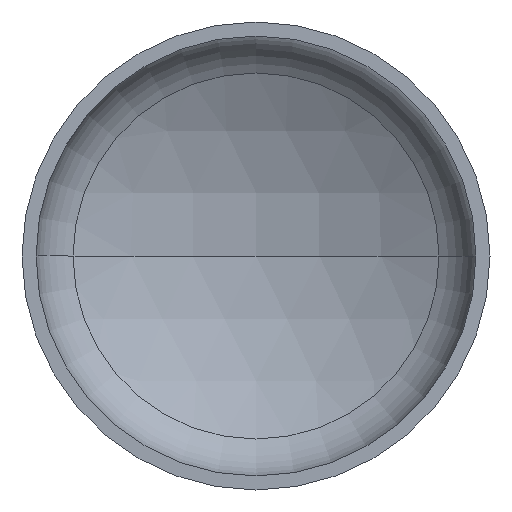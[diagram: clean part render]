
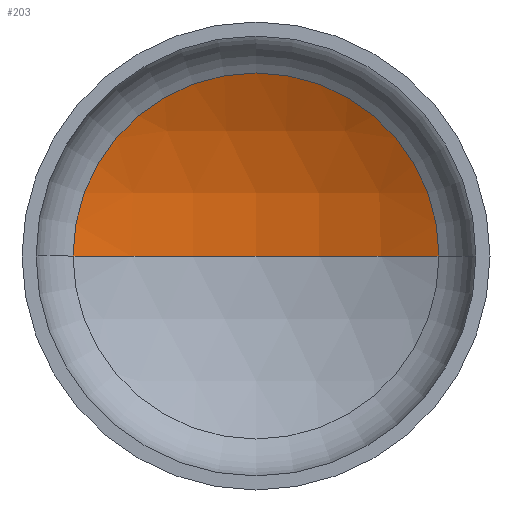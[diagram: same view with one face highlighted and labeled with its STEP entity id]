
A CAD part, front view. The second image highlights one B-rep face of the part: STEP entity #203.
In plain terms, the highlighted spherical face has radius 2720 mm.
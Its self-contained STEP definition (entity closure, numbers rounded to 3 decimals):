
#8 = EDGE_LOOP ( 'NONE', ( #121, #120, #96 ) ) ;
#11 = CARTESIAN_POINT ( 'NONE',  ( 0., 532.997, 0. ) ) ;
#16 = CARTESIAN_POINT ( 'NONE',  ( 0., -1839.862, 0. ) ) ;
#78 = DIRECTION ( 'NONE',  ( 1., 0., 0. ) ) ;
#96 = ORIENTED_EDGE ( 'NONE', *, *, #213, .T. ) ;
#97 = CARTESIAN_POINT ( 'NONE',  ( 1329.64, 532.997, 0. ) ) ;
#113 = VERTEX_POINT ( 'NONE', #339 ) ;
#120 = ORIENTED_EDGE ( 'NONE', *, *, #217, .T. ) ;
#121 = ORIENTED_EDGE ( 'NONE', *, *, #223, .F. ) ;
#123 = AXIS2_PLACEMENT_3D ( 'NONE', #385, #245, #182 ) ;
#130 = AXIS2_PLACEMENT_3D ( 'NONE', #16, #402, #272 ) ;
#133 = AXIS2_PLACEMENT_3D ( 'NONE', #11, #382, #78 ) ;
#154 = VERTEX_POINT ( 'NONE', #335 ) ;
#157 = AXIS2_PLACEMENT_3D ( 'NONE', #333, #205, #311 ) ;
#182 = DIRECTION ( 'NONE',  ( 1., 0., 0. ) ) ;
#203 = ADVANCED_FACE ( 'NONE', ( #411 ), #294, .F. ) ;
#205 = DIRECTION ( 'NONE',  ( 0., 0., -1. ) ) ;
#213 = EDGE_CURVE ( 'NONE', #378, #113, #401, .T. ) ;
#217 = EDGE_CURVE ( 'NONE', #154, #378, #348, .T. ) ;
#223 = EDGE_CURVE ( 'NONE', #154, #113, #284, .T. ) ;
#245 = DIRECTION ( 'NONE',  ( 0., 0., 1. ) ) ;
#272 = DIRECTION ( 'NONE',  ( -1., 0., 0. ) ) ;
#284 = CIRCLE ( 'NONE', #123, 2720. ) ;
#294 = SPHERICAL_SURFACE ( 'NONE', #157, 2720. ) ;
#311 = DIRECTION ( 'NONE',  ( -1., 0., 0. ) ) ;
#333 = CARTESIAN_POINT ( 'NONE',  ( 0., -1839.862, 0. ) ) ;
#335 = CARTESIAN_POINT ( 'NONE',  ( 0., 880.138, 0. ) ) ;
#339 = CARTESIAN_POINT ( 'NONE',  ( -1329.64, 532.997, 0. ) ) ;
#348 = CIRCLE ( 'NONE', #130, 2720. ) ;
#378 = VERTEX_POINT ( 'NONE', #97 ) ;
#382 = DIRECTION ( 'NONE',  ( 0., -1., 0. ) ) ;
#385 = CARTESIAN_POINT ( 'NONE',  ( 0., -1839.862, 0. ) ) ;
#401 = CIRCLE ( 'NONE', #133, 1329.64 ) ;
#402 = DIRECTION ( 'NONE',  ( 0., 0., -1. ) ) ;
#411 = FACE_OUTER_BOUND ( 'NONE', #8, .T. ) ;
